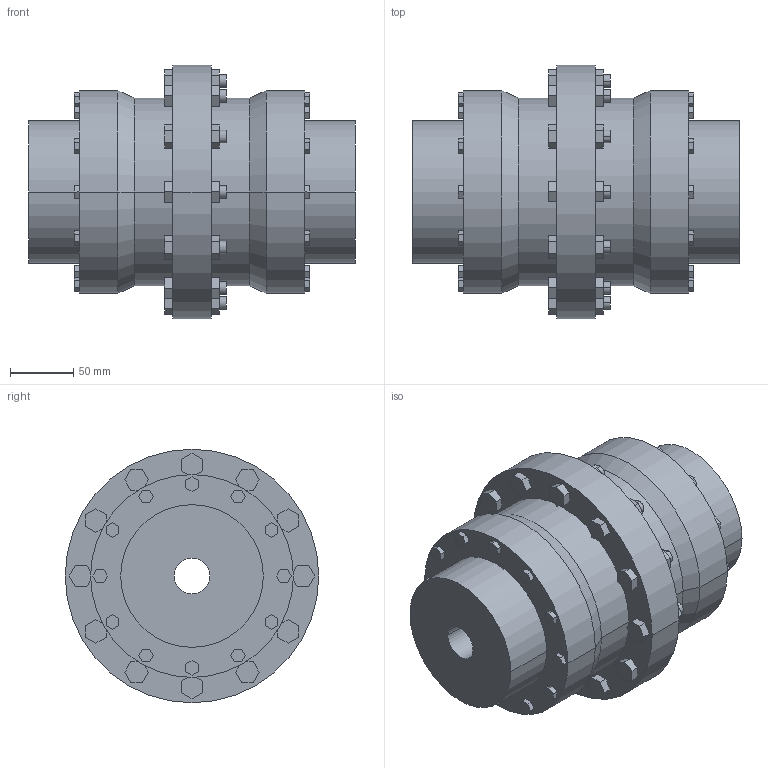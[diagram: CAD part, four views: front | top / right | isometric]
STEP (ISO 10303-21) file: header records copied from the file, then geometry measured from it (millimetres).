
FILE_DESCRIPTION((''),'2;1');
FILE_NAME('A19715100-0_ASM','2019-05-23T',('AB_Roschiwal'),('RENK AG'),'PRO/ENGINEER BY PARAMETRIC TECHNOLOGY CORPORATION, 2015440','PRO/ENGINEER BY PARAMETRIC TECHNOLOGY CORPORATION, 2015440','');
FILE_SCHEMA(('CONFIG_CONTROL_DESIGN'));
Length unit declared in the file: millimetre
Products named in the file (3): SBK70_GEHAEUSE; SBK70_NABE; A19715100-0_ASM
Assembly tree (3 placements, depth 2):
  A19715100-0_ASM
    SBK70_GEHAEUSE
    SBK70_NABE  x2
Bounding box: 258 x 200 x 200 mm (x, y, z)
Volume: 3153608.8 mm3; surface area: 369286.2 mm2
Topology: 3 solids, 3 shells, 422 faces, 1036 edges, 688 vertices
Faces by surface type: plane 362, cylinder 56, cone 4
Entity records: 12052 total; most frequent: CARTESIAN_POINT 2100, ORIENTED_EDGE 2024, DIRECTION 1940, EDGE_CURVE 1012, VECTOR 916, LINE 916, VERTEX_POINT 672, AXIS2_PLACEMENT_3D 512
